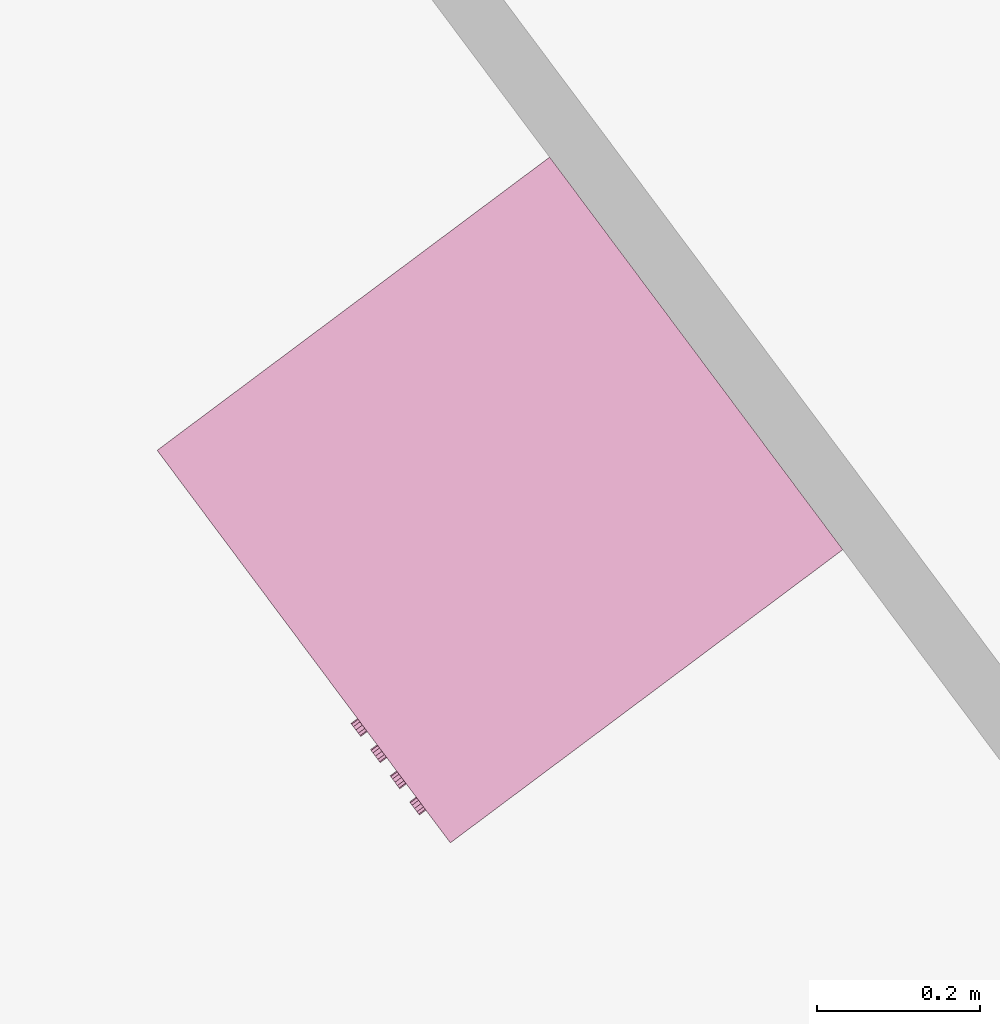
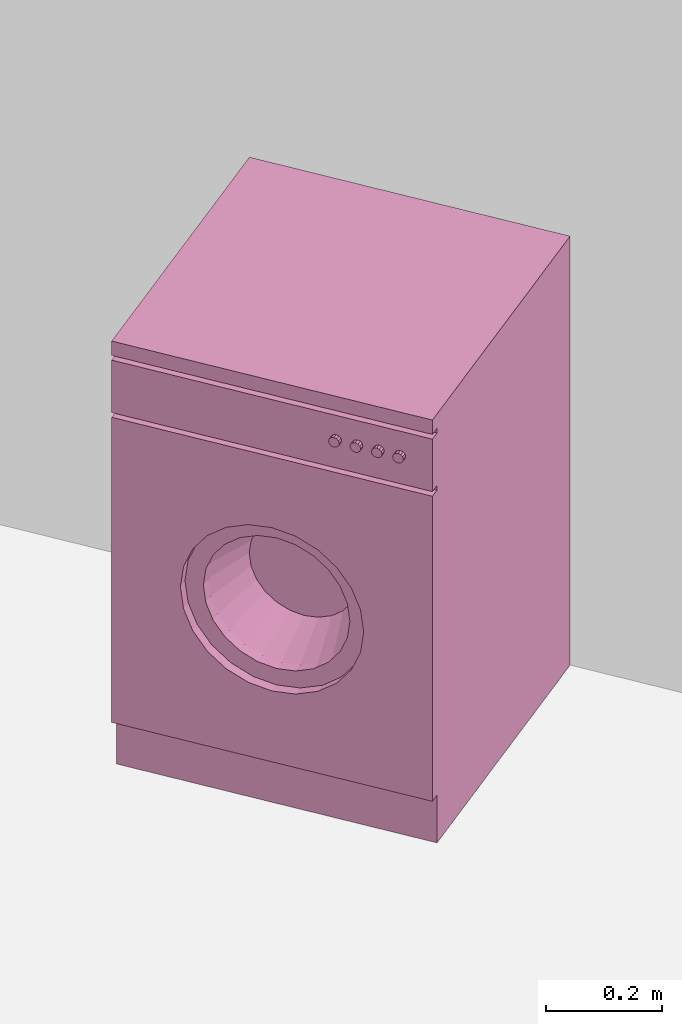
# One storey, part 146 of 195: 1 furnishing.
"""IFC2X3 building model written with IfcOpenShell, lengths in metres."""

import ifcopenshell
import ifcopenshell.guid

model = None  # the IFC model being written
_history = None  # IfcOwnerHistory: only IFC2X3 demands one
_inside = {}  # id of a spatial element -> (the spatial element, [elements in it])
_under = {}  # id of a project, library or spatial element -> (it, [spatial elements below it])
_declared = {}  # id of a project -> (the project, [libraries it declares])
_typed = {}  # id of a type object -> (the type object, [elements of that type])
_made_of = {}  # id of a material, layer set ... -> (it, [elements and type objects made of it])


def new_model(schema):
    """Start an empty IFC model of exactly this schema.

    Asked for "IFC4X3", IfcOpenShell would pick the latest addendum, in which some entities
    have other attributes; the version numbers below select the first issue.
    IFC2X3 requires an IfcOwnerHistory on every rooted entity: one is made here for all.
    """
    global model, _history
    if schema == "IFC4X3":
        model = ifcopenshell.file(schema_version=(4, 3, 0, 0))
    else:
        model = ifcopenshell.file(schema=schema)
    _inside.clear()
    _under.clear()
    _declared.clear()
    _typed.clear()
    _made_of.clear()
    _history = None
    if model.schema == "IFC2X3":
        org = make("IfcOrganization", Name="unknown")
        user = make(
            "IfcPersonAndOrganization",
            ThePerson=make("IfcPerson", FamilyName="unknown"),
            TheOrganization=org,
        )
        app = make(
            "IfcApplication",
            ApplicationDeveloper=org,
            Version="unknown",
            ApplicationFullName="unknown",
            ApplicationIdentifier="unknown",
        )
        _history = make(
            "IfcOwnerHistory",
            OwningUser=user,
            OwningApplication=app,
            ChangeAction="ADDED",
            CreationDate=0,
        )
    return model


def make(cls, **values):
    """One entity of the class cls with the attributes given. An attribute that is None is left unset."""
    return model.create_entity(
        cls, **{name: value for name, value in values.items() if value is not None}
    )


def entity(cls, *values):
    """Any entity or typed value of the class cls, its attributes in the order of the schema. None: left unset."""
    e = model.create_entity(cls)
    for i, value in enumerate(values):
        if value is not None:
            e[i] = value
    return e


def rooted(cls, **values):
    """An entity with a GlobalId (a new one), such as an element, a storey or a relation."""
    return make(cls, GlobalId=ifcopenshell.guid.new(), OwnerHistory=_history, **values)


def si_unit(unit_type, name, prefix=None):
    """IfcSIUnit, for example si_unit("LENGTHUNIT", "METRE", prefix="MILLI")."""
    return make("IfcSIUnit", UnitType=unit_type, Prefix=prefix, Name=name)


def converted_unit(unit_type, name, factor, base, dimensions=None, offset=None):
    """IfcConversionBasedUnit, such as the inch: factor (a typed value) times the base unit."""
    return make(
        "IfcConversionBasedUnit"
        if offset is None
        else "IfcConversionBasedUnitWithOffset",
        ConversionOffset=offset,
        Dimensions=None
        if dimensions is None
        else entity("IfcDimensionalExponents", *dimensions),
        UnitType=unit_type,
        Name=name,
        ConversionFactor=make(
            "IfcMeasureWithUnit", ValueComponent=factor, UnitComponent=base
        ),
    )


def derived_unit(unit_type, elements):
    """IfcDerivedUnit: a product of units, each with its exponent."""
    return make(
        "IfcDerivedUnit",
        Elements=[
            make("IfcDerivedUnitElement", Unit=unit, Exponent=power)
            for unit, power in elements
        ],
        UnitType=unit_type,
    )


def money_unit(currency):
    """IfcMonetaryUnit."""
    return make("IfcMonetaryUnit", Currency=currency)


def assignment(units):
    """IfcUnitAssignment: the units of a project."""
    return None if units is None else make("IfcUnitAssignment", Units=units)


def point(xyz):
    """IfcCartesianPoint."""
    return None if xyz is None else make("IfcCartesianPoint", Coordinates=xyz)


def direction(xyz):
    """IfcDirection."""
    return None if xyz is None else make("IfcDirection", DirectionRatios=xyz)


def frame(location, z_axis=None, x_axis=None):
    """IfcAxis2Placement3D, a coordinate frame: its origin and axes. An axis left out is left unset."""
    return make(
        "IfcAxis2Placement3D",
        Location=point(location),
        Axis=direction(z_axis),
        RefDirection=direction(x_axis),
    )


def origin_with_axes():
    """The frame at (0, 0, 0) with the z axis (0, 0, 1) and the x axis (1, 0, 0) written out."""
    return frame((0.0, 0.0, 0.0), z_axis=(0.0, 0.0, 1.0), x_axis=(1.0, 0.0, 0.0))


def place(relative_to, where):
    """IfcLocalPlacement: puts the frame where relative to a parent placement (None: the world)."""
    return make(
        "IfcLocalPlacement", PlacementRelTo=relative_to, RelativePlacement=where
    )


def context(
    kind, dimensions, precision=None, world=None, true_north=None, identifier=None
):
    """IfcGeometricRepresentationContext, for example the 3D "Model" context."""
    return make(
        "IfcGeometricRepresentationContext",
        ContextIdentifier=identifier,
        ContextType=kind,
        CoordinateSpaceDimension=dimensions,
        Precision=precision,
        WorldCoordinateSystem=world,
        TrueNorth=true_north,
    )


def subcontext(parent, identifier, kind, view, scale=None):
    """IfcGeometricRepresentationSubContext, for example "Body" below "Model"."""
    return make(
        "IfcGeometricRepresentationSubContext",
        ContextIdentifier=identifier,
        ContextType=kind,
        ParentContext=parent,
        TargetScale=scale,
        TargetView=view,
    )


def project(units=None, contexts=None):
    """IfcProject with its units and contexts."""
    return rooted(
        "IfcProject",
        Name="project",
        RepresentationContexts=contexts,
        UnitsInContext=assignment(units),
    )


def spatial(cls, under=None, at=None, **own):
    """A site, building, storey or space (cls), placed at a placement, below another one or the project."""
    s = rooted(cls, ObjectPlacement=at, **own)
    if under is not None:
        _under.setdefault(under.id(), (under, []))[1].append(s)
    return s


def faces_of(points, faces, orient=None, outer=None):
    """IfcFace entities. A face is a list of loops; a loop is a list of indices into points, from 0.

    orient and outer hold one flag for each loop. By default every Orientation is true, the
    first loop of a face is its IfcFaceOuterBound and the others are IfcFaceBound.
    """
    made = []
    for i, loops in enumerate(faces):
        bounds = []
        for j, loop in enumerate(loops):
            is_outer = j == 0 if outer is None else outer[i][j]
            bounds.append(
                make(
                    "IfcFaceOuterBound" if is_outer else "IfcFaceBound",
                    Bound=make("IfcPolyLoop", Polygon=[points[k] for k in loop]),
                    Orientation=True if orient is None else orient[i][j],
                )
            )
        made.append(make("IfcFace", Bounds=bounds))
    return made


def open_shell(faces, orient=None, outer=None):
    """The faces of one IfcOpenShell. surface_model builds it on its shared points."""
    return ("IfcOpenShell", faces, orient, outer)


def faceted_brep(points, faces, orient=None, outer=None, voids=None):
    """IfcFacetedBrep: a solid bounded by flat faces; with voids (closed shells), ...WithVoids."""
    shared = [point(p) for p in points]
    hull = make("IfcClosedShell", CfsFaces=faces_of(shared, faces, orient, outer))
    if voids is None:
        return make("IfcFacetedBrep", Outer=hull)
    return make(
        "IfcFacetedBrepWithVoids",
        Outer=hull,
        Voids=[
            make(cls, CfsFaces=faces_of(shared, fs, o, b)) for cls, fs, o, b in voids
        ],
    )


def surface_model(cls, points, shells):
    """IfcFaceBasedSurfaceModel or IfcShellBasedSurfaceModel (cls): surfaces that need not close."""
    shared = [point(p) for p in points]
    made = [make(c, CfsFaces=faces_of(shared, fs, o, b)) for c, fs, o, b in shells]
    if cls == "IfcFaceBasedSurfaceModel":
        return make(cls, FbsmFaces=made)
    return make(cls, SbsmBoundary=made)


def shape(context_of_items, identifier, shape_type, items):
    """IfcShapeRepresentation: the items that make up one representation, for example the "Body"."""
    return make(
        "IfcShapeRepresentation",
        ContextOfItems=context_of_items,
        RepresentationIdentifier=identifier,
        RepresentationType=shape_type,
        Items=items,
    )


def source(mapping_origin, context_of_items, identifier, shape_type, items):
    """IfcRepresentationMap: a shape defined once, which mapped items show again and again."""
    return make(
        "IfcRepresentationMap",
        MappingOrigin=mapping_origin,
        MappedRepresentation=shape(context_of_items, identifier, shape_type, items),
    )


def transform(
    local_origin,
    x_axis=None,
    y_axis=None,
    z_axis=None,
    scale=None,
    scale2=None,
    scale3=None,
    uniform=True,
):
    """IfcCartesianTransformationOperator3D, or its non-uniform kind. x_axis, y_axis, z_axis: its Axis1, 2, 3."""
    if uniform:
        return make(
            "IfcCartesianTransformationOperator3D",
            Axis1=direction(x_axis),
            Axis2=direction(y_axis),
            LocalOrigin=point(local_origin),
            Scale=scale,
            Axis3=direction(z_axis),
        )
    return make(
        "IfcCartesianTransformationOperator3DnonUniform",
        Axis1=direction(x_axis),
        Axis2=direction(y_axis),
        LocalOrigin=point(local_origin),
        Scale=scale,
        Axis3=direction(z_axis),
        Scale2=scale2,
        Scale3=scale3,
    )


def mapped(mapping_source, mapping_target):
    """IfcMappedItem: shows the shape of a source again, moved by a transform."""
    return make(
        "IfcMappedItem", MappingSource=mapping_source, MappingTarget=mapping_target
    )


def made_of(thing, what):
    """Note that an element or type object is made of a material, layer set ...; save() writes the relation."""
    if what is not None:
        _made_of.setdefault(what.id(), (what, []))[1].append(thing)
    return thing


def type_object(cls, material=None, **own):
    """A type object (cls), such as IfcWallType, which elements share."""
    return made_of(rooted(cls, **own), material)


def element(
    cls,
    number,
    at=None,
    inside=None,
    cuts=None,
    type_object=None,
    material=None,
    context=None,
    identifier="Body",
    shape_type=None,
    held_by="IfcProductDefinitionShape",
    body=None,
    shapes=None,
    **own,
):
    """One element of the class cls, such as IfcWall. Its Tag is "e" and its number.

    at: its placement. inside: the storey or other place that contains it. cuts: it is an
    opening in that element (IfcRelVoidsElement). A single representation is given by context,
    identifier, shape_type and body (its items); several are given by shapes. held_by: the class
    of the entity that holds the representations. save() writes the other relations.
    """
    e = rooted(cls, Tag="e%d" % number, ObjectPlacement=at, **own)
    if body is not None:
        shapes = [shape(context, identifier, shape_type, body)]
    if shapes is not None:
        e.Representation = make(held_by, Representations=shapes)
    if inside is not None:
        _inside.setdefault(inside.id(), (inside, []))[1].append(e)
    if cuts is not None:
        rooted(
            "IfcRelVoidsElement", RelatingBuildingElement=cuts, RelatedOpeningElement=e
        )
    if type_object is not None:
        _typed.setdefault(type_object.id(), (type_object, []))[1].append(e)
    return made_of(e, material)


def aggregate(whole, parts):
    """IfcRelAggregates: a whole, such as a stair, and the parts it consists of."""
    return rooted("IfcRelAggregates", RelatingObject=whole, RelatedObjects=parts)


def save(model, path):
    """Write the relations noted so far, then the file.

    IfcRelAggregates (storeys below a building ...), IfcRelContainedInSpatialStructure (elements
    in a storey), IfcRelDefinesByType, IfcRelAssociatesMaterial and IfcRelDeclares: one each for
    every whole, place, type object, material and project.
    """
    for whole, parts in _under.values():
        aggregate(whole, parts)
    for where, things in _inside.values():
        rooted(
            "IfcRelContainedInSpatialStructure",
            RelatedElements=things,
            RelatingStructure=where,
        )
    for kind, things in _typed.values():
        rooted("IfcRelDefinesByType", RelatedObjects=things, RelatingType=kind)
    for what, things in _made_of.values():
        rooted("IfcRelAssociatesMaterial", RelatedObjects=things, RelatingMaterial=what)
    for by, libraries in _declared.values():
        rooted("IfcRelDeclares", RelatingContext=by, RelatedDefinitions=libraries)
    model.write(path)


model = new_model("IFC2X3")

# Units and contexts
model_context = context("Model", 3, precision=1e-05, world=origin_with_axes(), true_north=direction((0.0, 1.0)))
body_context = subcontext(model_context, "Body", "Model", "MODEL_VIEW")
ifc_project = project(units=[si_unit("LENGTHUNIT", "METRE"), si_unit("AREAUNIT", "SQUARE_METRE"), si_unit("VOLUMEUNIT", "CUBIC_METRE"), converted_unit("PLANEANGLEUNIT", "DEGREE", entity("IfcPlaneAngleMeasure", 0.0174532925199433), si_unit("PLANEANGLEUNIT", "RADIAN"), dimensions=[0, 0, 0, 0, 0, 0, 0]), money_unit("CHF"), converted_unit("TIMEUNIT", "Year", entity("IfcTimeMeasure", 31557600.0), si_unit("TIMEUNIT", "SECOND"), dimensions=[0, 0, 1, 0, 0, 0, 0]), si_unit("MASSUNIT", "GRAM", prefix="KILO"), si_unit("THERMODYNAMICTEMPERATUREUNIT", "DEGREE_CELSIUS"), si_unit("LUMINOUSINTENSITYUNIT", "LUMEN"), si_unit("ENERGYUNIT", "JOULE", prefix="MEGA"), derived_unit("THERMALCONDUCTANCEUNIT", [(si_unit("POWERUNIT", "WATT"), 1), (si_unit("LENGTHUNIT", "METRE"), -1), (si_unit("THERMODYNAMICTEMPERATUREUNIT", "KELVIN"), -1)]), derived_unit("SPECIFICHEATCAPACITYUNIT", [(si_unit("ENERGYUNIT", "JOULE"), 1), (si_unit("MASSUNIT", "GRAM", prefix="KILO"), -1), (si_unit("THERMODYNAMICTEMPERATUREUNIT", "KELVIN"), -1)]), derived_unit("MASSDENSITYUNIT", [(si_unit("MASSUNIT", "GRAM", prefix="KILO"), 1), (si_unit("VOLUMEUNIT", "CUBIC_METRE"), -1)])], contexts=[model_context])

# Site, building, storey
site_placement = place(None, origin_with_axes())
site = spatial("IfcSite", under=ifc_project, at=site_placement, Name="Site", CompositionType="ELEMENT")
building_placement = place(site_placement, origin_with_axes())
building = spatial("IfcBuilding", under=site, at=building_placement, Name="Bâtiment", CompositionType="ELEMENT")
storey_placement = place(building_placement, origin_with_axes())
storey = spatial("IfcBuildingStorey", under=building, at=storey_placement, Name="rdc", CompositionType="ELEMENT", Elevation=0.0)

# Furnishing
furnishing_element_type = type_object("IfcFurnishingElementType", Name="Machine à laver")
shared_shape = source(origin_with_axes(), body_context, "Body", "SurfaceModel", [
    faceted_brep([(0.0, 0.02, 0.1), (0.0, 0.0, 0.1), (-0.6, 0.0, 0.1), (-0.6, 0.02, 0.1), (0.0, 0.02000000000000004, 0.74), (0.0, 0.0, 0.74), (-0.6, 0.0, 0.74), (-0.4714285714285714, 0.0, 0.42), (-0.4655872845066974, 0.0, 0.4643689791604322), (-0.448461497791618, 0.0, 0.5057142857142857), (-0.4212183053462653, 0.0, 0.5412183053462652), (-0.3857142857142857, 0.0, 0.568461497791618), (-0.3443689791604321, 0.0, 0.5855872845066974), (-0.3, 0.0, 0.5914285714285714), (-0.2556310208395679, 0.0, 0.5855872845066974), (-0.2142857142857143, 0.0, 0.5684614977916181), (-0.1787816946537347, 0.0, 0.5412183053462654), (-0.1515385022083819, 0.0, 0.5057142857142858), (-0.1344127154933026, 0.0, 0.4643689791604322), (-0.1285714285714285, 0.0, 0.42), (-0.1344127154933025, 0.0, 0.3756310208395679), (-0.1515385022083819, 0.0, 0.3342857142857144), (-0.1787816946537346, 0.0, 0.2987816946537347), (-0.2142857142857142, 0.0, 0.2715385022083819), (-0.2556310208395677, 0.0, 0.2544127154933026), (-0.2999999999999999, 0.0, 0.2485714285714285), (-0.344368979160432, 0.0, 0.2544127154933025), (-0.3857142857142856, 0.0, 0.2715385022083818), (-0.4212183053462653, 0.0, 0.2987816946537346), (-0.448461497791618, 0.0, 0.3342857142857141), (-0.4655872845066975, 0.0, 0.3756310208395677), (-0.6, 0.02000000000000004, 0.74), (-0.4714285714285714, 0.02000000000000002, 0.42), (-0.4655872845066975, 0.02000000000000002, 0.3756310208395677), (-0.448461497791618, 0.02000000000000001, 0.3342857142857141), (-0.4212183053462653, 0.02000000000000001, 0.2987816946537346), (-0.3857142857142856, 0.02000000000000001, 0.2715385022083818), (-0.344368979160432, 0.02000000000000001, 0.2544127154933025), (-0.2999999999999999, 0.02000000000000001, 0.2485714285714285), (-0.2556310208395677, 0.02000000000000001, 0.2544127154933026), (-0.2142857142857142, 0.02000000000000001, 0.2715385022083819), (-0.1787816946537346, 0.02000000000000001, 0.2987816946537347), (-0.1515385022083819, 0.02000000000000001, 0.3342857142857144), (-0.1344127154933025, 0.02000000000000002, 0.3756310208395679), (-0.1285714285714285, 0.02000000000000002, 0.42), (-0.1344127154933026, 0.02000000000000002, 0.4643689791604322), (-0.1515385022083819, 0.02000000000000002, 0.5057142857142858), (-0.1787816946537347, 0.02000000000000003, 0.5412183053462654), (-0.2142857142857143, 0.02000000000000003, 0.5684614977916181), (-0.2556310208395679, 0.02000000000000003, 0.5855872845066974), (-0.3, 0.02000000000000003, 0.5914285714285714), (-0.3443689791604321, 0.02000000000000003, 0.5855872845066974), (-0.3857142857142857, 0.02000000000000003, 0.568461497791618), (-0.4212183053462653, 0.02000000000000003, 0.5412183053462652), (-0.448461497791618, 0.02000000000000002, 0.5057142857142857), (-0.4655872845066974, 0.02000000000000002, 0.4643689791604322)], [[[0, 1, 2, 3]], [[4, 5, 1, 0]], [[1, 5, 6, 2], [7, 8, 9, 10, 11, 12, 13, 14, 15, 16, 17, 18, 19, 20, 21, 22, 23, 24, 25, 26, 27, 28, 29, 30]], [[3, 2, 6, 31]], [[0, 3, 31, 4], [32, 33, 34, 35, 36, 37, 38, 39, 40, 41, 42, 43, 44, 45, 46, 47, 48, 49, 50, 51, 52, 53, 54, 55]], [[31, 6, 5, 4]], [[55, 8, 7, 32]], [[54, 9, 8, 55]], [[53, 10, 9, 54]], [[52, 11, 10, 53]], [[51, 12, 11, 52]], [[50, 13, 12, 51]], [[49, 14, 13, 50]], [[48, 15, 14, 49]], [[47, 16, 15, 48]], [[46, 17, 16, 47]], [[45, 18, 17, 46]], [[44, 19, 18, 45]], [[43, 20, 19, 44]], [[42, 21, 20, 43]], [[41, 22, 21, 42]], [[40, 23, 22, 41]], [[39, 24, 23, 40]], [[38, 25, 24, 39]], [[37, 26, 25, 38]], [[36, 27, 26, 37]], [[35, 28, 27, 36]], [[34, 29, 28, 35]], [[33, 30, 29, 34]], [[32, 7, 30, 33]]]),
    faceted_brep([(-0.4714285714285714, 0.04000000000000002, 0.42), (-0.4714285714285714, 0.02000000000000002, 0.42), (-0.4655872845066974, 0.02000000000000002, 0.4643689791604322), (-0.4655872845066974, 0.04000000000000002, 0.4643689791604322), (-0.4655872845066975, 0.04000000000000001, 0.3756310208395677), (-0.4655872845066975, 0.02000000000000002, 0.3756310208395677), (-0.448461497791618, 0.02000000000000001, 0.3342857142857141), (-0.4212183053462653, 0.02000000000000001, 0.2987816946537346), (-0.3857142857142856, 0.02000000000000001, 0.2715385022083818), (-0.344368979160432, 0.02000000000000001, 0.2544127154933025), (-0.2999999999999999, 0.02000000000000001, 0.2485714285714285), (-0.2556310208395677, 0.02000000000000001, 0.2544127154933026), (-0.2142857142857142, 0.02000000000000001, 0.2715385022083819), (-0.1787816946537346, 0.02000000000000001, 0.2987816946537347), (-0.1515385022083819, 0.02000000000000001, 0.3342857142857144), (-0.1344127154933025, 0.02000000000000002, 0.3756310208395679), (-0.1285714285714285, 0.02000000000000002, 0.42), (-0.1344127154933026, 0.02000000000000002, 0.4643689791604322), (-0.1515385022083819, 0.02000000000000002, 0.5057142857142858), (-0.1787816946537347, 0.02000000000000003, 0.5412183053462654), (-0.2142857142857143, 0.02000000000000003, 0.5684614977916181), (-0.2556310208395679, 0.02000000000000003, 0.5855872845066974), (-0.3, 0.02000000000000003, 0.5914285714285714), (-0.3443689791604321, 0.02000000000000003, 0.5855872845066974), (-0.3857142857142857, 0.02000000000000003, 0.568461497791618), (-0.4212183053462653, 0.02000000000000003, 0.5412183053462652), (-0.448461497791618, 0.02000000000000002, 0.5057142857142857), (-0.4371428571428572, 0.02000000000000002, 0.42), (-0.432469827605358, 0.02000000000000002, 0.4554951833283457), (-0.4187691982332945, 0.02000000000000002, 0.4885714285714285), (-0.3969746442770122, 0.02000000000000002, 0.5169746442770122), (-0.3685714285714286, 0.02000000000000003, 0.5387691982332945), (-0.3354951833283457, 0.02000000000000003, 0.552469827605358), (-0.3, 0.02000000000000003, 0.5571428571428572), (-0.2645048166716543, 0.02000000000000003, 0.552469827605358), (-0.2314285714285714, 0.02000000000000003, 0.5387691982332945), (-0.2030253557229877, 0.02000000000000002, 0.5169746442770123), (-0.1812308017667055, 0.02000000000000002, 0.4885714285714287), (-0.167530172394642, 0.02000000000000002, 0.4554951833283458), (-0.1628571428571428, 0.02000000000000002, 0.42), (-0.167530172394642, 0.02000000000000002, 0.3845048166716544), (-0.1812308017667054, 0.02000000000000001, 0.3514285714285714), (-0.2030253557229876, 0.02000000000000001, 0.3230253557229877), (-0.2314285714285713, 0.02000000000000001, 0.3012308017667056), (-0.2645048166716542, 0.02000000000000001, 0.287530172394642), (-0.2999999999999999, 0.02000000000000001, 0.2828571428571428), (-0.3354951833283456, 0.02000000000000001, 0.287530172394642), (-0.3685714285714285, 0.02000000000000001, 0.3012308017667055), (-0.3969746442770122, 0.02000000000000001, 0.3230253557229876), (-0.4187691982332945, 0.02000000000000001, 0.3514285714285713), (-0.432469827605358, 0.02000000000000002, 0.3845048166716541), (-0.448461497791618, 0.04000000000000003, 0.5057142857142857), (-0.4212183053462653, 0.04000000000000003, 0.5412183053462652), (-0.3857142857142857, 0.04000000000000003, 0.568461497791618), (-0.3443689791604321, 0.04000000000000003, 0.5855872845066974), (-0.3, 0.04000000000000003, 0.5914285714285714), (-0.2556310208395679, 0.04000000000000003, 0.5855872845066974), (-0.2142857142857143, 0.04000000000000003, 0.5684614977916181), (-0.1787816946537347, 0.04000000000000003, 0.5412183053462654), (-0.1515385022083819, 0.04000000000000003, 0.5057142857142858), (-0.1344127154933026, 0.04000000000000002, 0.4643689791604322), (-0.1285714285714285, 0.04000000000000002, 0.42), (-0.1344127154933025, 0.04000000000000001, 0.3756310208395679), (-0.1515385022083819, 0.04000000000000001, 0.3342857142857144), (-0.1787816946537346, 0.04000000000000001, 0.2987816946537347), (-0.2142857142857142, 0.04000000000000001, 0.2715385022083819), (-0.2556310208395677, 0.04000000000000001, 0.2544127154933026), (-0.2999999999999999, 0.04000000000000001, 0.2485714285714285), (-0.344368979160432, 0.04000000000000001, 0.2544127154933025), (-0.3857142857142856, 0.04000000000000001, 0.2715385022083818), (-0.4212183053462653, 0.04000000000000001, 0.2987816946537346), (-0.448461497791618, 0.04000000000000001, 0.3342857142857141), (-0.4371428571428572, 0.04000000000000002, 0.42), (-0.432469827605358, 0.04000000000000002, 0.3845048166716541), (-0.4187691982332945, 0.04000000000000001, 0.3514285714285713), (-0.3969746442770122, 0.04000000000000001, 0.3230253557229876), (-0.3685714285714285, 0.04000000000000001, 0.3012308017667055), (-0.3354951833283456, 0.04000000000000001, 0.287530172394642), (-0.2999999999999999, 0.04000000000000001, 0.2828571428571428), (-0.2645048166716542, 0.04000000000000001, 0.287530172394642), (-0.2314285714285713, 0.04000000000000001, 0.3012308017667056), (-0.2030253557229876, 0.04000000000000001, 0.3230253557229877), (-0.1812308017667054, 0.04000000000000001, 0.3514285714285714), (-0.167530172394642, 0.04000000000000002, 0.3845048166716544), (-0.1628571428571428, 0.04000000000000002, 0.42), (-0.167530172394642, 0.04000000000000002, 0.4554951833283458), (-0.1812308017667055, 0.04000000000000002, 0.4885714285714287), (-0.2030253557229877, 0.04000000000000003, 0.5169746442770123), (-0.2314285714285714, 0.04000000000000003, 0.5387691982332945), (-0.2645048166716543, 0.04000000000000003, 0.552469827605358), (-0.3, 0.04000000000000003, 0.5571428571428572), (-0.3354951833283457, 0.04000000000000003, 0.552469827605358), (-0.3685714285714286, 0.04000000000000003, 0.5387691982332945), (-0.3969746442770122, 0.04000000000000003, 0.5169746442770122), (-0.4187691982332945, 0.04000000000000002, 0.4885714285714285), (-0.432469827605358, 0.04000000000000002, 0.4554951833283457)], [[[0, 1, 2, 3]], [[4, 5, 1, 0]], [[1, 5, 6, 7, 8, 9, 10, 11, 12, 13, 14, 15, 16, 17, 18, 19, 20, 21, 22, 23, 24, 25, 26, 2], [27, 28, 29, 30, 31, 32, 33, 34, 35, 36, 37, 38, 39, 40, 41, 42, 43, 44, 45, 46, 47, 48, 49, 50]], [[3, 2, 26, 51]], [[0, 3, 51, 52, 53, 54, 55, 56, 57, 58, 59, 60, 61, 62, 63, 64, 65, 66, 67, 68, 69, 70, 71, 4], [72, 73, 74, 75, 76, 77, 78, 79, 80, 81, 82, 83, 84, 85, 86, 87, 88, 89, 90, 91, 92, 93, 94, 95]], [[71, 6, 5, 4]], [[70, 7, 6, 71]], [[69, 8, 7, 70]], [[68, 9, 8, 69]], [[67, 10, 9, 68]], [[66, 11, 10, 67]], [[65, 12, 11, 66]], [[64, 13, 12, 65]], [[63, 14, 13, 64]], [[62, 15, 14, 63]], [[61, 16, 15, 62]], [[60, 17, 16, 61]], [[59, 18, 17, 60]], [[58, 19, 18, 59]], [[57, 20, 19, 58]], [[56, 21, 20, 57]], [[55, 22, 21, 56]], [[54, 23, 22, 55]], [[53, 24, 23, 54]], [[52, 25, 24, 53]], [[51, 26, 25, 52]], [[95, 28, 27, 72]], [[94, 29, 28, 95]], [[93, 30, 29, 94]], [[92, 31, 30, 93]], [[91, 32, 31, 92]], [[90, 33, 32, 91]], [[89, 34, 33, 90]], [[88, 35, 34, 89]], [[87, 36, 35, 88]], [[86, 37, 36, 87]], [[85, 38, 37, 86]], [[84, 39, 38, 85]], [[83, 40, 39, 84]], [[82, 41, 40, 83]], [[81, 42, 41, 82]], [[80, 43, 42, 81]], [[79, 44, 43, 80]], [[78, 45, 44, 79]], [[77, 46, 45, 78]], [[76, 47, 46, 77]], [[75, 48, 47, 76]], [[74, 49, 48, 75]], [[73, 50, 49, 74]], [[72, 27, 50, 73]]]),
    surface_model("IfcShellBasedSurfaceModel", [(-0.2645048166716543, 0.03999999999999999, 0.552469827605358), (-0.2733786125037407, 0.14, 0.5193523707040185), (-0.3, 0.14, 0.5228571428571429), (-0.3, 0.03999999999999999, 0.5571428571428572), (-0.2314285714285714, 0.03999999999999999, 0.5387691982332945), (-0.2485714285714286, 0.14, 0.5090768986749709), (-0.2272690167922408, 0.14, 0.4927309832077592), (-0.2109231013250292, 0.14, 0.4714285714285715), (-0.2006476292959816, 0.14, 0.4466213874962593), (-0.1971428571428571, 0.14, 0.4200000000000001), (-0.2006476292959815, 0.14, 0.3933786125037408), (-0.2109231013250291, 0.14, 0.3685714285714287), (-0.2272690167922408, 0.14, 0.3472690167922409), (-0.2485714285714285, 0.14, 0.3309231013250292), (-0.2733786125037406, 0.14, 0.3206476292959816), (-0.2999999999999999, 0.14, 0.3171428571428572), (-0.3266213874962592, 0.14, 0.3206476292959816), (-0.3514285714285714, 0.14, 0.3309231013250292), (-0.3727309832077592, 0.14, 0.3472690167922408), (-0.3890768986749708, 0.14, 0.3685714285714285), (-0.3993523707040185, 0.14, 0.3933786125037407), (-0.4028571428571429, 0.14, 0.42), (-0.3993523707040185, 0.14, 0.4466213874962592), (-0.3890768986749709, 0.14, 0.4714285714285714), (-0.3727309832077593, 0.14, 0.4927309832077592), (-0.3514285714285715, 0.14, 0.5090768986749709), (-0.3266213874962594, 0.14, 0.5193523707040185), (-0.3354951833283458, 0.03999999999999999, 0.552469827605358), (-0.2030253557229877, 0.03999999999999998, 0.5169746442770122), (-0.1812308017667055, 0.03999999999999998, 0.4885714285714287), (-0.167530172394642, 0.03999999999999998, 0.4554951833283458), (-0.1628571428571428, 0.03999999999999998, 0.4200000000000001), (-0.167530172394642, 0.03999999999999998, 0.3845048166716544), (-0.1812308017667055, 0.03999999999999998, 0.3514285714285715), (-0.2030253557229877, 0.03999999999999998, 0.3230253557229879), (-0.2314285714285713, 0.03999999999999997, 0.3012308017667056), (-0.2645048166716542, 0.03999999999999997, 0.2875301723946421), (-0.2999999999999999, 0.03999999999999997, 0.2828571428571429), (-0.3354951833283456, 0.03999999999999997, 0.2875301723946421), (-0.3685714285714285, 0.03999999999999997, 0.3012308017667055), (-0.3969746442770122, 0.03999999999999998, 0.3230253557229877), (-0.4187691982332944, 0.03999999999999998, 0.3514285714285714), (-0.432469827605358, 0.03999999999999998, 0.3845048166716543), (-0.4371428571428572, 0.03999999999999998, 0.4199999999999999), (-0.432469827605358, 0.03999999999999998, 0.4554951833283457), (-0.4187691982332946, 0.03999999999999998, 0.4885714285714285), (-0.3969746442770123, 0.03999999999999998, 0.5169746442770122), (-0.3685714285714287, 0.03999999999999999, 0.5387691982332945)], [open_shell([[[0, 1, 2, 3]], [[4, 5, 1, 0]], [[2, 1, 5, 6, 7, 8, 9, 10, 11, 12, 13, 14, 15, 16, 17, 18, 19, 20, 21, 22, 23, 24, 25, 26]], [[3, 2, 26, 27]], [[28, 6, 5, 4]], [[29, 7, 6, 28]], [[30, 8, 7, 29]], [[31, 9, 8, 30]], [[32, 10, 9, 31]], [[33, 11, 10, 32]], [[34, 12, 11, 33]], [[35, 13, 12, 34]], [[36, 14, 13, 35]], [[37, 15, 14, 36]], [[38, 16, 15, 37]], [[39, 17, 16, 38]], [[40, 18, 17, 39]], [[41, 19, 18, 40]], [[42, 20, 19, 41]], [[43, 21, 20, 42]], [[44, 22, 21, 43]], [[45, 23, 22, 44]], [[46, 24, 23, 45]], [[47, 25, 24, 46]], [[27, 26, 25, 47]]])]),
    surface_model("IfcShellBasedSurfaceModel", [(0.0, 0.02, 0.1), (0.0, 0.6, 0.09999999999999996), (0.0, 0.6, 0.87), (0.0, 0.02000000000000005, 0.87)], [open_shell([[[0, 1, 2, 3]]])]),
    surface_model("IfcShellBasedSurfaceModel", [(-0.6, 0.01999999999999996, 0.1), (-0.6, 0.5999999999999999, 0.09999999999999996), (-0.6, 0.5999999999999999, 0.87), (-0.6, 0.02000000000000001, 0.87)], [open_shell([[[0, 1, 2, 3]]])]),
    surface_model("IfcShellBasedSurfaceModel", [(0.0, 0.6, 0.1), (-0.6, 0.6, 0.1), (-0.6, 0.6, 0.87), (0.0, 0.6, 0.87)], [open_shell([[[0, 1, 2, 3]]])]),
    faceted_brep([(0.0, 0.02, 0.0), (0.0, 0.02, 0.1), (-0.6, 0.02, 0.1), (-0.6, 0.02, 0.0), (0.0, 0.6, 0.0), (0.0, 0.6, 0.1), (-0.6, 0.6, 0.1), (-0.6, 0.6, 0.0)], [[[0, 1, 2, 3]], [[4, 5, 1, 0]], [[1, 5, 6, 2]], [[3, 2, 6, 7]], [[0, 3, 7, 4]], [[7, 6, 5, 4]]]),
    faceted_brep([(0.0, 0.02, 0.75), (0.0, 0.0, 0.75), (-0.6, 0.0, 0.75), (-0.6, 0.02, 0.75), (0.0, 0.02000000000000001, 0.86), (0.0, 0.0, 0.86), (-0.6, 0.0, 0.86), (-0.6, 0.02000000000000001, 0.86)], [[[0, 1, 2, 3]], [[4, 5, 1, 0]], [[1, 5, 6, 2]], [[3, 2, 6, 7]], [[0, 3, 7, 4]], [[7, 6, 5, 4]]]),
    surface_model("IfcShellBasedSurfaceModel", [(0.0, 0.02, 0.74), (-0.6, 0.02, 0.74), (-0.6, 0.02000000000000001, 0.87), (0.0, 0.02000000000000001, 0.87)], [open_shell([[[0, 1, 2, 3]]])]),
    faceted_brep([(0.0, 0.0, 0.87), (0.0, 0.0, 0.9), (-0.6, 0.0, 0.9), (-0.6, 0.0, 0.87), (0.0, 0.6, 0.87), (0.0, 0.6, 0.9), (-0.6, 0.6, 0.9), (-0.6, 0.6, 0.87)], [[[0, 1, 2, 3]], [[4, 5, 1, 0]], [[1, 5, 6, 2]], [[3, 2, 6, 7]], [[0, 3, 7, 4]], [[7, 6, 5, 4]]]),
    faceted_brep([(-0.06866025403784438, 0.0, 0.8049999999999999), (-0.06999999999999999, 0.0, 0.8099999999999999), (-0.06866025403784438, 0.0, 0.815), (-0.065, 0.0, 0.8186602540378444), (-0.06, 0.0, 0.82), (-0.055, 0.0, 0.8186602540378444), (-0.05133974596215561, 0.0, 0.815), (-0.05, 0.0, 0.8099999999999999), (-0.05133974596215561, 0.0, 0.8049999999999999), (-0.05499999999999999, 0.0, 0.8013397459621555), (-0.05999999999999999, 0.0, 0.7999999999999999), (-0.06499999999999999, 0.0, 0.8013397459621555), (-0.06866025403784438, -0.01, 0.8049999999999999), (-0.06999999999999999, -0.01, 0.8099999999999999), (-0.06866025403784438, -0.01, 0.815), (-0.065, -0.01, 0.8186602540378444), (-0.06, -0.01, 0.82), (-0.055, -0.01, 0.8186602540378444), (-0.05133974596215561, -0.01, 0.815), (-0.05, -0.01, 0.8099999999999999), (-0.05133974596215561, -0.01, 0.8049999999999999), (-0.05499999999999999, -0.01, 0.8013397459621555), (-0.05999999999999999, -0.01, 0.7999999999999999), (-0.06499999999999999, -0.01, 0.8013397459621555)], [[[0, 1, 2, 3, 4, 5, 6, 7, 8, 9, 10, 11]], [[0, 12, 13, 1]], [[1, 13, 14, 2]], [[2, 14, 15, 3]], [[3, 15, 16, 4]], [[4, 16, 17, 5]], [[5, 17, 18, 6]], [[6, 18, 19, 7]], [[7, 19, 20, 8]], [[8, 20, 21, 9]], [[9, 21, 22, 10]], [[10, 22, 23, 11]], [[11, 23, 12, 0]], [[12, 23, 22, 21, 20, 19, 18, 17, 16, 15, 14, 13]]]),
    faceted_brep([(-0.1086602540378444, 0.0, 0.8049999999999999), (-0.11, 0.0, 0.8099999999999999), (-0.1086602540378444, 0.0, 0.815), (-0.105, 0.0, 0.8186602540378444), (-0.1, 0.0, 0.82), (-0.095, 0.0, 0.8186602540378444), (-0.09133974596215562, 0.0, 0.815), (-0.09000000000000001, 0.0, 0.8099999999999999), (-0.09133974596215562, 0.0, 0.8049999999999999), (-0.095, 0.0, 0.8013397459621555), (-0.09999999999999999, 0.0, 0.7999999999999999), (-0.105, 0.0, 0.8013397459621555), (-0.1086602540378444, -0.01, 0.8049999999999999), (-0.11, -0.01, 0.8099999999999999), (-0.1086602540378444, -0.01, 0.815), (-0.105, -0.01, 0.8186602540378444), (-0.1, -0.01, 0.82), (-0.095, -0.01, 0.8186602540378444), (-0.09133974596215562, -0.01, 0.815), (-0.09000000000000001, -0.01, 0.8099999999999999), (-0.09133974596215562, -0.01, 0.8049999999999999), (-0.095, -0.01, 0.8013397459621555), (-0.09999999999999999, -0.01, 0.7999999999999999), (-0.105, -0.01, 0.8013397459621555)], [[[0, 1, 2, 3, 4, 5, 6, 7, 8, 9, 10, 11]], [[0, 12, 13, 1]], [[1, 13, 14, 2]], [[2, 14, 15, 3]], [[3, 15, 16, 4]], [[4, 16, 17, 5]], [[5, 17, 18, 6]], [[6, 18, 19, 7]], [[7, 19, 20, 8]], [[8, 20, 21, 9]], [[9, 21, 22, 10]], [[10, 22, 23, 11]], [[11, 23, 12, 0]], [[12, 23, 22, 21, 20, 19, 18, 17, 16, 15, 14, 13]]]),
    faceted_brep([(-0.1486602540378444, 0.0, 0.8049999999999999), (-0.15, 0.0, 0.8099999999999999), (-0.1486602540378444, 0.0, 0.815), (-0.145, 0.0, 0.8186602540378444), (-0.14, 0.0, 0.82), (-0.135, 0.0, 0.8186602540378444), (-0.1313397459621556, 0.0, 0.815), (-0.13, 0.0, 0.8099999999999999), (-0.1313397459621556, 0.0, 0.8049999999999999), (-0.135, 0.0, 0.8013397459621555), (-0.14, 0.0, 0.7999999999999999), (-0.145, 0.0, 0.8013397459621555), (-0.1486602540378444, -0.01, 0.8049999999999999), (-0.15, -0.01, 0.8099999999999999), (-0.1486602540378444, -0.01, 0.815), (-0.145, -0.01, 0.8186602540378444), (-0.14, -0.01, 0.82), (-0.135, -0.01, 0.8186602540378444), (-0.1313397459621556, -0.01, 0.815), (-0.13, -0.01, 0.8099999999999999), (-0.1313397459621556, -0.01, 0.8049999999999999), (-0.135, -0.01, 0.8013397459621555), (-0.14, -0.01, 0.7999999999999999), (-0.145, -0.01, 0.8013397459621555)], [[[0, 1, 2, 3, 4, 5, 6, 7, 8, 9, 10, 11]], [[0, 12, 13, 1]], [[1, 13, 14, 2]], [[2, 14, 15, 3]], [[3, 15, 16, 4]], [[4, 16, 17, 5]], [[5, 17, 18, 6]], [[6, 18, 19, 7]], [[7, 19, 20, 8]], [[8, 20, 21, 9]], [[9, 21, 22, 10]], [[10, 22, 23, 11]], [[11, 23, 12, 0]], [[12, 23, 22, 21, 20, 19, 18, 17, 16, 15, 14, 13]]]),
    faceted_brep([(-0.1886602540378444, 0.0, 0.8049999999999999), (-0.19, 0.0, 0.8099999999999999), (-0.1886602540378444, 0.0, 0.815), (-0.185, 0.0, 0.8186602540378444), (-0.18, 0.0, 0.82), (-0.175, 0.0, 0.8186602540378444), (-0.1713397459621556, 0.0, 0.815), (-0.17, 0.0, 0.8099999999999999), (-0.1713397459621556, 0.0, 0.8049999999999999), (-0.175, 0.0, 0.8013397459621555), (-0.18, 0.0, 0.7999999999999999), (-0.185, 0.0, 0.8013397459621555), (-0.1886602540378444, -0.01, 0.8049999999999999), (-0.19, -0.01, 0.8099999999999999), (-0.1886602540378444, -0.01, 0.815), (-0.185, -0.01, 0.8186602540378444), (-0.18, -0.01, 0.82), (-0.175, -0.01, 0.8186602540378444), (-0.1713397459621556, -0.01, 0.815), (-0.17, -0.01, 0.8099999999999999), (-0.1713397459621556, -0.01, 0.8049999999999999), (-0.175, -0.01, 0.8013397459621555), (-0.18, -0.01, 0.7999999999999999), (-0.185, -0.01, 0.8013397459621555)], [[[0, 1, 2, 3, 4, 5, 6, 7, 8, 9, 10, 11]], [[0, 12, 13, 1]], [[1, 13, 14, 2]], [[2, 14, 15, 3]], [[3, 15, 16, 4]], [[4, 16, 17, 5]], [[5, 17, 18, 6]], [[6, 18, 19, 7]], [[7, 19, 20, 8]], [[8, 20, 21, 9]], [[9, 21, 22, 10]], [[10, 22, 23, 11]], [[11, 23, 12, 0]], [[12, 23, 22, 21, 20, 19, 18, 17, 16, 15, 14, 13]]]),
])
furnishing_placement = place(storey_placement, frame((9538.478067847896, -1084.14002861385, 57.7), z_axis=(0.0, 0.0, 1.0), x_axis=(0.5984464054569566, -0.8011628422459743, 0.0)))
element("IfcFurnishingElement", 1, at=furnishing_placement, inside=storey, type_object=furnishing_element_type, Name="Obj.-019", context=body_context, shape_type="MappedRepresentation", body=[
    mapped(shared_shape, transform((0.0, 0.0, 0.0))),
])

save(model, "model.ifc")
